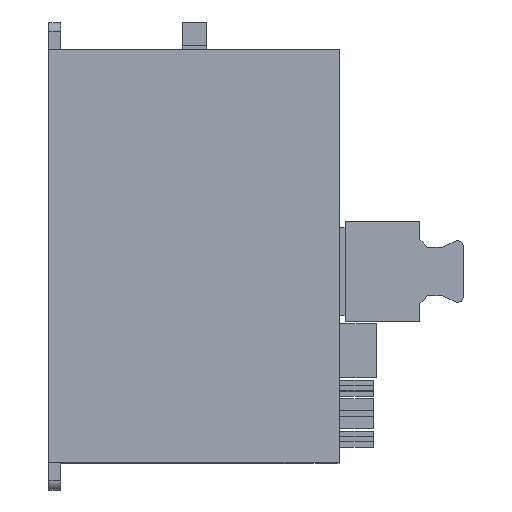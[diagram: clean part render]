
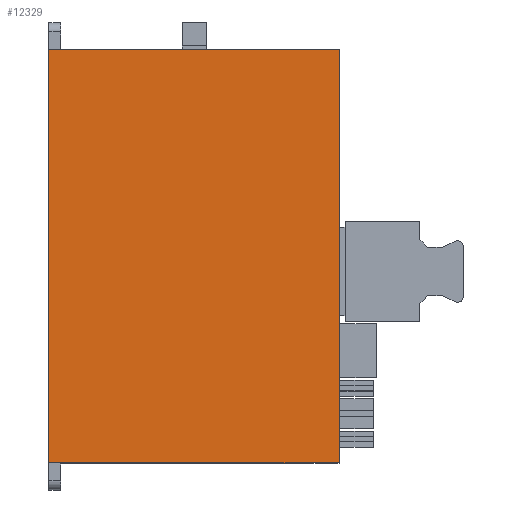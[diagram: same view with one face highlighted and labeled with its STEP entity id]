
A CAD part, top view. The second image highlights one B-rep face of the part: STEP entity #12329.
In plain terms, the highlighted planar face has unit normal (0, 0, 1).
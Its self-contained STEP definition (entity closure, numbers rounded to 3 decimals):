
#687 = EDGE_LOOP ( 'NONE', ( #18396, #17664, #7308, #15714 ) ) ;
#2026 = DIRECTION ( 'NONE',  ( -1., 0., 0. ) ) ;
#2185 = AXIS2_PLACEMENT_3D ( 'NONE', #11463, #9795, #12751 ) ;
#2190 = EDGE_CURVE ( 'NONE', #14672, #15471, #10802, .T. ) ;
#2673 = VERTEX_POINT ( 'NONE', #16048 ) ;
#3762 = LINE ( 'NONE', #14307, #19467 ) ;
#4197 = CARTESIAN_POINT ( 'NONE',  ( 0., 0., 33.5 ) ) ;
#5800 = EDGE_CURVE ( 'NONE', #2673, #10323, #9705, .T. ) ;
#6576 = CARTESIAN_POINT ( 'NONE',  ( 97., -69., 33.5 ) ) ;
#6727 = FACE_OUTER_BOUND ( 'NONE', #687, .T. ) ;
#7265 = EDGE_CURVE ( 'NONE', #10323, #14672, #3762, .T. ) ;
#7308 = ORIENTED_EDGE ( 'NONE', *, *, #2190, .T. ) ;
#9041 = VECTOR ( 'NONE', #16005, 1000. ) ;
#9460 = VECTOR ( 'NONE', #14845, 1000. ) ;
#9705 = LINE ( 'NONE', #14232, #9041 ) ;
#9795 = DIRECTION ( 'NONE',  ( 0., 0., 1. ) ) ;
#10323 = VERTEX_POINT ( 'NONE', #6576 ) ;
#10802 = LINE ( 'NONE', #16827, #13033 ) ;
#11164 = DIRECTION ( 'NONE',  ( 0., 1., 0. ) ) ;
#11180 = PLANE ( 'NONE',  #2185 ) ;
#11463 = CARTESIAN_POINT ( 'NONE',  ( 0., 0., 33.5 ) ) ;
#12329 = ADVANCED_FACE ( 'NONE', ( #6727 ), #11180, .T. ) ;
#12751 = DIRECTION ( 'NONE',  ( 1., 0., 0. ) ) ;
#13033 = VECTOR ( 'NONE', #2026, 1000. ) ;
#13237 = EDGE_CURVE ( 'NONE', #15471, #2673, #13556, .T. ) ;
#13556 = LINE ( 'NONE', #4197, #9460 ) ;
#14232 = CARTESIAN_POINT ( 'NONE',  ( 0., -69., 33.5 ) ) ;
#14307 = CARTESIAN_POINT ( 'NONE',  ( 97., 0., 33.5 ) ) ;
#14672 = VERTEX_POINT ( 'NONE', #17039 ) ;
#14845 = DIRECTION ( 'NONE',  ( 0., -1., 0. ) ) ;
#15471 = VERTEX_POINT ( 'NONE', #15703 ) ;
#15703 = CARTESIAN_POINT ( 'NONE',  ( 0., 69., 33.5 ) ) ;
#15714 = ORIENTED_EDGE ( 'NONE', *, *, #13237, .T. ) ;
#16005 = DIRECTION ( 'NONE',  ( 1., 0., 0. ) ) ;
#16048 = CARTESIAN_POINT ( 'NONE',  ( 0., -69., 33.5 ) ) ;
#16827 = CARTESIAN_POINT ( 'NONE',  ( 0., 69., 33.5 ) ) ;
#17039 = CARTESIAN_POINT ( 'NONE',  ( 97., 69., 33.5 ) ) ;
#17664 = ORIENTED_EDGE ( 'NONE', *, *, #7265, .T. ) ;
#18396 = ORIENTED_EDGE ( 'NONE', *, *, #5800, .T. ) ;
#19467 = VECTOR ( 'NONE', #11164, 1000. ) ;
